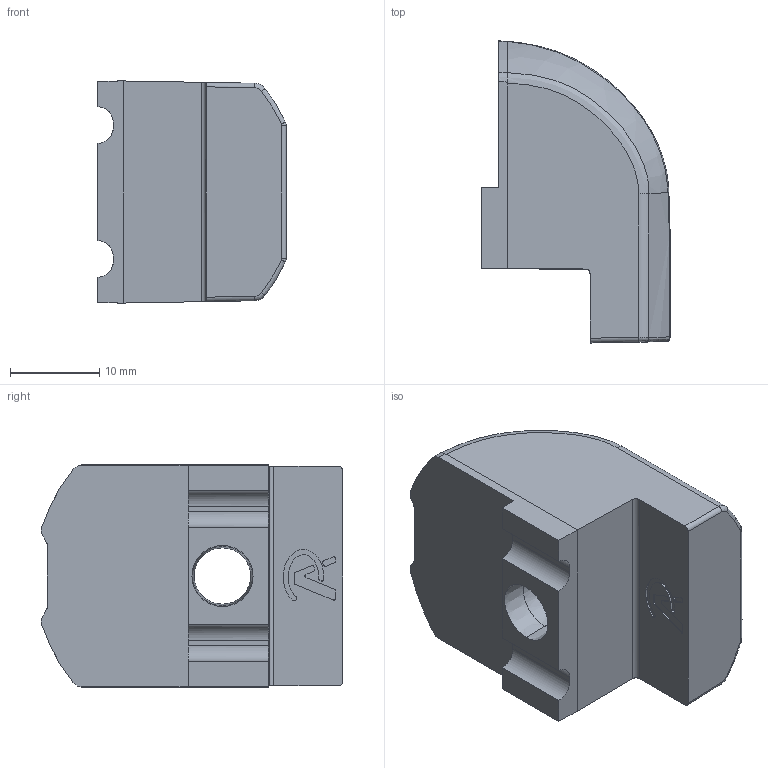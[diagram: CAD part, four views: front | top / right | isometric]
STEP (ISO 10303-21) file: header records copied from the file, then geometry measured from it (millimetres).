
FILE_DESCRIPTION (( 'STEP AP214' ), '1' );
FILE_NAME ('013.100.066.STEP', '2023-01-13T13:54:14', ( '' ), ( '' ), 'SwSTEP 2.0', 'SolidWorks 2021', '' );
FILE_SCHEMA (( 'AUTOMOTIVE_DESIGN' ));
Length unit declared in the file: millimetre
Products named in the file (1): 013.100.066
Bounding box: 21.16 x 33.83 x 24.9 mm (x, y, z)
Volume: 10437 mm3; surface area: 4837.6 mm2
Topology: 2 solids, 2 shells, 114 faces, 302 edges, 196 vertices
Faces by surface type: plane 43, bspline 41, cylinder 26, cone 4
Entity records: 6175 total; most frequent: CARTESIAN_POINT 3617, ORIENTED_EDGE 604, DIRECTION 397, EDGE_CURVE 302, VERTEX_POINT 196, VECTOR 141, LINE 141, AXIS2_PLACEMENT_3D 128
